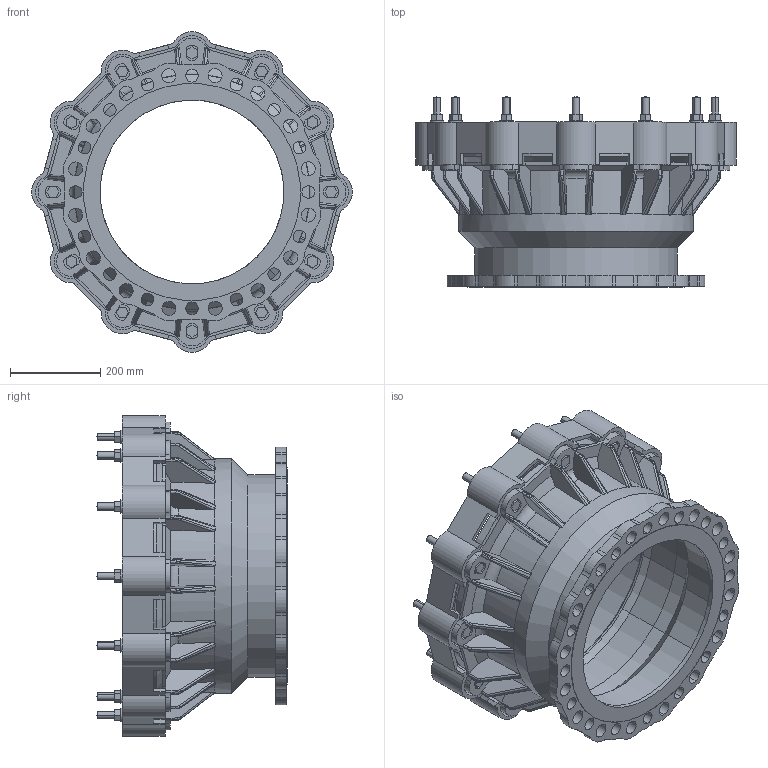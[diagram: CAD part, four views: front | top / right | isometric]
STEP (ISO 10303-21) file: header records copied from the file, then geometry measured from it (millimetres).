
FILE_DESCRIPTION((''),'2;1');
FILE_NAME('BIM_13199_16_ASM','2020-09-10T',('MReader'),(''),'CREO PARAMETRIC BY PTC INC, 2016130','CREO PARAMETRIC BY PTC INC, 2016130','');
FILE_SCHEMA(('CONFIG_CONTROL_DESIGN'));
Length unit declared in the file: millimetre
Products named in the file (6): 448-492X400; 448-492_GASKET_BIM; _BIM_13417_1; BIM_M16_BOLT_150; BIM_M16_NUT; BIM_13199_16_ASM
Assembly tree (27 placements, depth 2):
  BIM_13199_16_ASM
    448-492X400
    448-492_GASKET_BIM
    _BIM_13417_1
    BIM_M16_BOLT_150  x12
    BIM_M16_NUT  x12
Bounding box: 709.65 x 421 x 709.65 mm (x, y, z)
Volume: 15855325 mm3; surface area: 2820998.4 mm2
Topology: 27 solids, 27 shells, 1016 faces, 2664 edges, 1718 vertices
Faces by surface type: plane 430, cylinder 372, bspline 120, cone 58, sphere 24, torus 12
Entity records: 30159 total; most frequent: CARTESIAN_POINT 11045, ORIENTED_EDGE 4180, DIRECTION 3716, EDGE_CURVE 2090, AXIS2_PLACEMENT_3D 1454, VERTEX_POINT 1355, EDGE_LOOP 899, VECTOR 808
